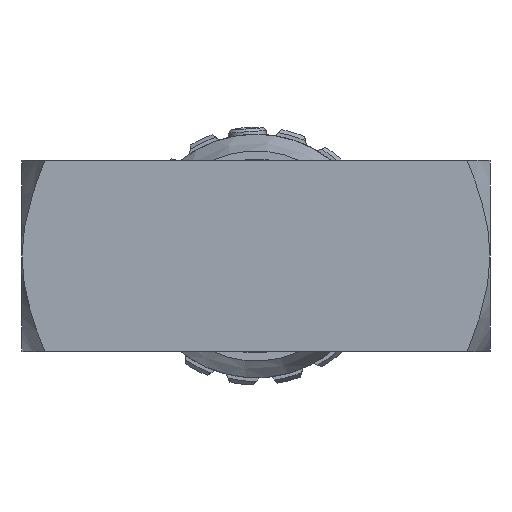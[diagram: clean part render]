
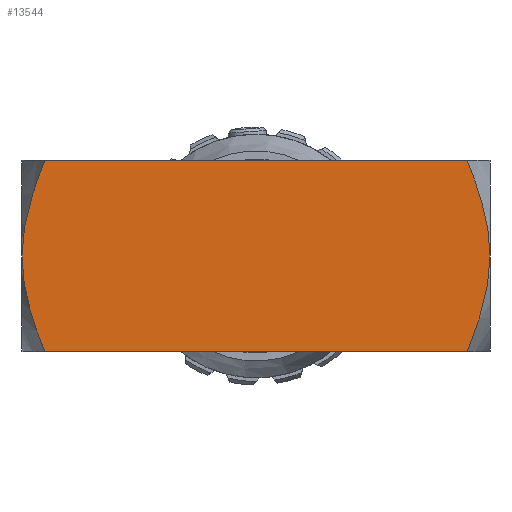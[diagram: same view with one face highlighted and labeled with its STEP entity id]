
A CAD part, front view. The second image highlights one B-rep face of the part: STEP entity #13544.
In plain terms, the highlighted planar face has unit normal (0, -1, 0).
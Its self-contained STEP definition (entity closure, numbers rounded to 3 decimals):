
#772 = CARTESIAN_POINT ( 'NONE',  ( -22.434, -10., -9.202 ) ) ;
#994 = VERTEX_POINT ( 'NONE', #11471 ) ;
#1022 = B_SPLINE_CURVE_WITH_KNOTS ( 'NONE', 3,
 ( #2661, #34030, #5284, #23569, #7975, #26158, #10704, #28804, #13341, #31409 ),
 .UNSPECIFIED., .F., .F.,
 ( 4, 2, 2, 2, 4 ),
 ( 0.026, 0.029, 0.031, 0.034, 0.036 ),
 .UNSPECIFIED. ) ;
#1158 = CARTESIAN_POINT ( 'NONE',  ( -22.109, -10., -10. ) ) ;
#1625 = CARTESIAN_POINT ( 'NONE',  ( 24.5, -10., 0. ) ) ;
#2336 = CARTESIAN_POINT ( 'NONE',  ( -24.5, -10., 0.867 ) ) ;
#2661 = CARTESIAN_POINT ( 'NONE',  ( 22.109, -10., 10. ) ) ;
#3790 = CARTESIAN_POINT ( 'NONE',  ( 24.484, -10., -0.864 ) ) ;
#4311 = FACE_OUTER_BOUND ( 'NONE', #30878, .T. ) ;
#4518 = ORIENTED_EDGE ( 'NONE', *, *, #8350, .F. ) ;
#4969 = CARTESIAN_POINT ( 'NONE',  ( -24.5, -10., 0. ) ) ;
#4978 = ORIENTED_EDGE ( 'NONE', *, *, #6927, .F. ) ;
#5284 = CARTESIAN_POINT ( 'NONE',  ( 22.745, -10., 8.393 ) ) ;
#5400 = CARTESIAN_POINT ( 'NONE',  ( -22.744, -10., -8.395 ) ) ;
#6473 = CARTESIAN_POINT ( 'NONE',  ( 24.372, -10., -2.159 ) ) ;
#6927 = EDGE_CURVE ( 'NONE', #12753, #994, #29286, .T. ) ;
#7914 = CARTESIAN_POINT ( 'NONE',  ( -22.109, -10., 10. ) ) ;
#7975 = CARTESIAN_POINT ( 'NONE',  ( 23.576, -10., 5.926 ) ) ;
#8158 = EDGE_CURVE ( 'NONE', #14643, #8287, #24392, .T. ) ;
#8287 = VERTEX_POINT ( 'NONE', #7914 ) ;
#8350 = EDGE_CURVE ( 'NONE', #994, #8287, #12367, .T. ) ;
#9140 = CARTESIAN_POINT ( 'NONE',  ( 24.008, -10., -4.278 ) ) ;
#10081 = ORIENTED_EDGE ( 'NONE', *, *, #23038, .F. ) ;
#10182 = CARTESIAN_POINT ( 'NONE',  ( -22.435, -10., 9.201 ) ) ;
#10704 = CARTESIAN_POINT ( 'NONE',  ( 24.19, -10., 3.42 ) ) ;
#11471 = CARTESIAN_POINT ( 'NONE',  ( -24.5, -10., 0. ) ) ;
#11869 = CARTESIAN_POINT ( 'NONE',  ( 23.314, -10., -6.763 ) ) ;
#12367 = B_SPLINE_CURVE_WITH_KNOTS ( 'NONE', 3,
 ( #31613, #2336, #31583, #31551, #31543, #31499, #31473, #31468, #10182, #31429 ),
 .UNSPECIFIED., .F., .F.,
 ( 4, 2, 2, 2, 4 ),
 ( 0.022, 0.024, 0.027, 0.029, 0.032 ),
 .UNSPECIFIED. ) ;
#12753 = VERTEX_POINT ( 'NONE', #19982 ) ;
#12909 = VECTOR ( 'NONE', #12996, 1000. ) ;
#12996 = DIRECTION ( 'NONE',  ( -1., 0., 0. ) ) ;
#13182 = DIRECTION ( 'NONE',  ( 0., 1., 0. ) ) ;
#13341 = CARTESIAN_POINT ( 'NONE',  ( 24.5, -10., 0.867 ) ) ;
#13485 = ORIENTED_EDGE ( 'NONE', *, *, #8158, .T. ) ;
#13544 = ADVANCED_FACE ( 'NONE', ( #4311 ), #18235, .F. ) ;
#14348 = CARTESIAN_POINT ( 'NONE',  ( 24.5, -10., -0.43 ) ) ;
#14457 = CARTESIAN_POINT ( 'NONE',  ( 22.434, -10., -9.202 ) ) ;
#14643 = VERTEX_POINT ( 'NONE', #30349 ) ;
#16060 = CARTESIAN_POINT ( 'NONE',  ( -23.314, -10., -6.763 ) ) ;
#17490 = EDGE_CURVE ( 'NONE', #26862, #22995, #20809, .T. ) ;
#17591 = VECTOR ( 'NONE', #20344, 1000. ) ;
#18235 = PLANE ( 'NONE',  #24850 ) ;
#19982 = CARTESIAN_POINT ( 'NONE',  ( -22.109, -10., -10. ) ) ;
#20195 = CARTESIAN_POINT ( 'NONE',  ( 24.5, -10., 10. ) ) ;
#20344 = DIRECTION ( 'NONE',  ( -1., 0., 0. ) ) ;
#20809 = B_SPLINE_CURVE_WITH_KNOTS ( 'NONE', 3,
 ( #32459, #14348, #3790, #22106, #6473, #24655, #9140, #27316, #11869, #29958, #14457, #32578 ),
 .UNSPECIFIED., .F., .F.,
 ( 4, 2, 2, 2, 2, 4 ),
 ( 0.036, 0.038, 0.039, 0.041, 0.044, 0.047 ),
 .UNSPECIFIED. ) ;
#22106 = CARTESIAN_POINT ( 'NONE',  ( 24.42, -10., -1.729 ) ) ;
#22995 = VERTEX_POINT ( 'NONE', #25921 ) ;
#23038 = EDGE_CURVE ( 'NONE', #14643, #26862, #1022, .T. ) ;
#23117 = CARTESIAN_POINT ( 'NONE',  ( -24.5, -10., -0.43 ) ) ;
#23569 = CARTESIAN_POINT ( 'NONE',  ( 23.317, -10., 6.754 ) ) ;
#23808 = EDGE_CURVE ( 'NONE', #22995, #12753, #32784, .T. ) ;
#24392 = LINE ( 'NONE', #20195, #17591 ) ;
#24655 = CARTESIAN_POINT ( 'NONE',  ( 24.187, -10., -3.438 ) ) ;
#24850 = AXIS2_PLACEMENT_3D ( 'NONE', #28636, #13182, #31238 ) ;
#25900 = CARTESIAN_POINT ( 'NONE',  ( -23.572, -10., -5.94 ) ) ;
#25921 = CARTESIAN_POINT ( 'NONE',  ( 22.109, -10., -10. ) ) ;
#26158 = CARTESIAN_POINT ( 'NONE',  ( 24.013, -10., 4.26 ) ) ;
#26862 = VERTEX_POINT ( 'NONE', #1625 ) ;
#27316 = CARTESIAN_POINT ( 'NONE',  ( 23.572, -10., -5.94 ) ) ;
#28451 = CARTESIAN_POINT ( 'NONE',  ( 24.5, -10., -10. ) ) ;
#28636 = CARTESIAN_POINT ( 'NONE',  ( 24.5, -10., -10. ) ) ;
#28804 = CARTESIAN_POINT ( 'NONE',  ( 24.434, -10., 1.724 ) ) ;
#29286 = B_SPLINE_CURVE_WITH_KNOTS ( 'NONE', 3,
 ( #1158, #772, #5400, #16060, #25900, #30366, #33515, #32255, #31117, #31653, #23117, #4969 ),
 .UNSPECIFIED., .F., .F.,
 ( 4, 2, 2, 2, 2, 4 ),
 ( 0.011, 0.014, 0.016, 0.019, 0.02, 0.022 ),
 .UNSPECIFIED. ) ;
#29958 = CARTESIAN_POINT ( 'NONE',  ( 22.744, -10., -8.395 ) ) ;
#30349 = CARTESIAN_POINT ( 'NONE',  ( 22.109, -10., 10. ) ) ;
#30366 = CARTESIAN_POINT ( 'NONE',  ( -24.008, -10., -4.278 ) ) ;
#30878 = EDGE_LOOP ( 'NONE', ( #10081, #13485, #4518, #4978, #31179, #31933 ) ) ;
#31117 = CARTESIAN_POINT ( 'NONE',  ( -24.42, -10., -1.729 ) ) ;
#31179 = ORIENTED_EDGE ( 'NONE', *, *, #23808, .F. ) ;
#31238 = DIRECTION ( 'NONE',  ( 0., 0., 1. ) ) ;
#31409 = CARTESIAN_POINT ( 'NONE',  ( 24.5, -10., 0. ) ) ;
#31429 = CARTESIAN_POINT ( 'NONE',  ( -22.109, -10., 10. ) ) ;
#31468 = CARTESIAN_POINT ( 'NONE',  ( -22.745, -10., 8.393 ) ) ;
#31473 = CARTESIAN_POINT ( 'NONE',  ( -23.317, -10., 6.754 ) ) ;
#31499 = CARTESIAN_POINT ( 'NONE',  ( -23.576, -10., 5.926 ) ) ;
#31543 = CARTESIAN_POINT ( 'NONE',  ( -24.013, -10., 4.26 ) ) ;
#31551 = CARTESIAN_POINT ( 'NONE',  ( -24.19, -10., 3.42 ) ) ;
#31583 = CARTESIAN_POINT ( 'NONE',  ( -24.434, -10., 1.724 ) ) ;
#31613 = CARTESIAN_POINT ( 'NONE',  ( -24.5, -10., 0. ) ) ;
#31653 = CARTESIAN_POINT ( 'NONE',  ( -24.484, -10., -0.864 ) ) ;
#31933 = ORIENTED_EDGE ( 'NONE', *, *, #17490, .F. ) ;
#32255 = CARTESIAN_POINT ( 'NONE',  ( -24.372, -10., -2.159 ) ) ;
#32459 = CARTESIAN_POINT ( 'NONE',  ( 24.5, -10., 0. ) ) ;
#32578 = CARTESIAN_POINT ( 'NONE',  ( 22.109, -10., -10. ) ) ;
#32784 = LINE ( 'NONE', #28451, #12909 ) ;
#33515 = CARTESIAN_POINT ( 'NONE',  ( -24.187, -10., -3.438 ) ) ;
#34030 = CARTESIAN_POINT ( 'NONE',  ( 22.435, -10., 9.201 ) ) ;
